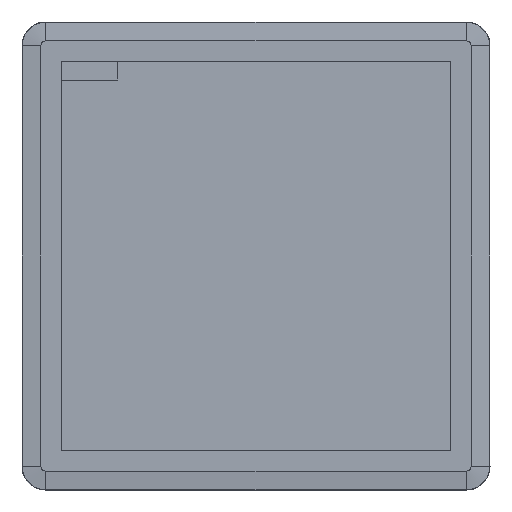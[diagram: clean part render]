
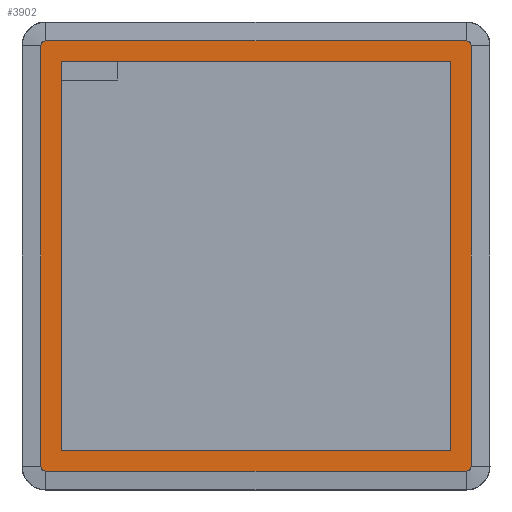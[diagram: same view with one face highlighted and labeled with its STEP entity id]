
A CAD part, front view. The second image highlights one B-rep face of the part: STEP entity #3902.
In plain terms, the highlighted planar face has unit normal (0, -1, 0).
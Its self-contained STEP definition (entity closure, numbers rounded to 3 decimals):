
#2136=B_SPLINE_CURVE_WITH_KNOTS('',1,(#58973,#58974),.UNSPECIFIED.,.F.,.F.,
(2,2),(0.,1.),.UNSPECIFIED.);
#2139=B_SPLINE_CURVE_WITH_KNOTS('',3,(#58979,#58980,#58981,#58982,#58983,
#58984),.UNSPECIFIED.,.F.,.F.,(4,2,4),(-0.785,0.,
0.785),.UNSPECIFIED.);
#2143=B_SPLINE_CURVE_WITH_KNOTS('',3,(#58995,#58996,#58997,#58998,#58999,
#59000),.UNSPECIFIED.,.F.,.F.,(4,2,4),(-0.785,0.,
0.785),.UNSPECIFIED.);
#2145=B_SPLINE_CURVE_WITH_KNOTS('',1,(#59007,#59008),.UNSPECIFIED.,.F.,.F.,
(2,2),(0.,1.),.UNSPECIFIED.);
#2150=B_SPLINE_CURVE_WITH_KNOTS('',1,(#59017,#59018),.UNSPECIFIED.,.F.,.F.,
(2,2),(-1.,0.),.UNSPECIFIED.);
#2151=B_SPLINE_CURVE_WITH_KNOTS('',3,(#59019,#59020,#59021,#59022,#59023,
#59024),.UNSPECIFIED.,.F.,.F.,(4,2,4),(-0.785,0.,
0.785),.UNSPECIFIED.);
#2155=B_SPLINE_CURVE_WITH_KNOTS('',3,(#59035,#59036,#59037,#59038,#59039,
#59040),.UNSPECIFIED.,.F.,.F.,(4,2,4),(-0.785,0.,
0.785),.UNSPECIFIED.);
#2161=B_SPLINE_CURVE_WITH_KNOTS('',1,(#59119,#59120),.UNSPECIFIED.,.F.,.F.,
(2,2),(0.,1.),.UNSPECIFIED.);
#2162=B_SPLINE_CURVE_WITH_KNOTS('',1,(#59121,#59122),.UNSPECIFIED.,.F.,.F.,
(2,2),(-4.,-3.),.UNSPECIFIED.);
#2163=B_SPLINE_CURVE_WITH_KNOTS('',1,(#59123,#59124),.UNSPECIFIED.,.F.,.F.,
(2,2),(-3.,-2.),.UNSPECIFIED.);
#2164=B_SPLINE_CURVE_WITH_KNOTS('',1,(#59125,#59126),.UNSPECIFIED.,.F.,.F.,
(2,2),(-2.,-1.),.UNSPECIFIED.);
#2165=B_SPLINE_CURVE_WITH_KNOTS('',1,(#59127,#59128),.UNSPECIFIED.,.F.,.F.,
(2,2),(-1.,0.),.UNSPECIFIED.);
#2751=FACE_BOUND('',#6635,.T.);
#3902=ADVANCED_FACE('',(#5240,#2751),#25216,.T.);
#5240=FACE_OUTER_BOUND('',#6634,.T.);
#6634=EDGE_LOOP('',(#13484,#13485,#13486,#13487,#13488,#13489,#13490,#13491));
#6635=EDGE_LOOP('',(#13492,#13493,#13494,#13495));
#13484=ORIENTED_EDGE('',*,*,#18857,.F.);
#13485=ORIENTED_EDGE('',*,*,#18854,.F.);
#13486=ORIENTED_EDGE('',*,*,#18861,.F.);
#13487=ORIENTED_EDGE('',*,*,#18868,.F.);
#13488=ORIENTED_EDGE('',*,*,#18873,.F.);
#13489=ORIENTED_EDGE('',*,*,#18887,.T.);
#13490=ORIENTED_EDGE('',*,*,#18869,.F.);
#13491=ORIENTED_EDGE('',*,*,#18863,.F.);
#13492=ORIENTED_EDGE('',*,*,#18891,.T.);
#13493=ORIENTED_EDGE('',*,*,#18888,.T.);
#13494=ORIENTED_EDGE('',*,*,#18889,.T.);
#13495=ORIENTED_EDGE('',*,*,#18890,.T.);
#18854=EDGE_CURVE('',#23993,#23994,#2136,.T.);
#18857=EDGE_CURVE('',#23994,#23996,#2139,.T.);
#18861=EDGE_CURVE('',#23999,#23993,#2143,.T.);
#18863=EDGE_CURVE('',#23996,#24000,#2145,.T.);
#18868=EDGE_CURVE('',#24003,#23999,#2150,.T.);
#18869=EDGE_CURVE('',#24000,#24004,#2151,.T.);
#18873=EDGE_CURVE('',#24007,#24003,#2155,.T.);
#18887=EDGE_CURVE('',#24007,#24004,#2161,.T.);
#18888=EDGE_CURVE('',#24008,#24009,#2162,.T.);
#18889=EDGE_CURVE('',#24009,#24010,#2163,.T.);
#18890=EDGE_CURVE('',#24010,#24011,#2164,.T.);
#18891=EDGE_CURVE('',#24011,#24008,#2165,.T.);
#23993=VERTEX_POINT('',#58863);
#23994=VERTEX_POINT('',#58864);
#23996=VERTEX_POINT('',#58866);
#23999=VERTEX_POINT('',#58869);
#24000=VERTEX_POINT('',#58870);
#24003=VERTEX_POINT('',#58873);
#24004=VERTEX_POINT('',#58874);
#24007=VERTEX_POINT('',#58877);
#24008=VERTEX_POINT('',#58878);
#24009=VERTEX_POINT('',#58879);
#24010=VERTEX_POINT('',#58880);
#24011=VERTEX_POINT('',#58881);
#25216=PLANE('',#26629);
#26629=AXIS2_PLACEMENT_3D('',#58827,#27318,$);
#27318=DIRECTION('',(0.,-1.,0.));
#58827=CARTESIAN_POINT('',(-137.481,-30.5,137.481));
#58863=CARTESIAN_POINT('',(112.074,-30.5,-114.555));
#58864=CARTESIAN_POINT('',(-112.074,-30.5,-114.555));
#58866=CARTESIAN_POINT('',(-114.555,-30.5,-112.074));
#58869=CARTESIAN_POINT('',(114.555,-30.5,-112.074));
#58870=CARTESIAN_POINT('',(-114.555,-30.5,112.074));
#58873=CARTESIAN_POINT('',(114.555,-30.5,112.074));
#58874=CARTESIAN_POINT('',(-112.074,-30.5,114.555));
#58877=CARTESIAN_POINT('',(112.074,-30.5,114.555));
#58878=CARTESIAN_POINT('',(-103.734,-30.5,103.734));
#58879=CARTESIAN_POINT('',(103.734,-30.5,103.734));
#58880=CARTESIAN_POINT('',(103.734,-30.5,-103.734));
#58881=CARTESIAN_POINT('',(-103.734,-30.5,-103.734));
#58973=CARTESIAN_POINT('',(112.074,-30.5,-114.555));
#58974=CARTESIAN_POINT('',(-112.074,-30.5,-114.555));
#58979=CARTESIAN_POINT('',(-112.074,-30.5,-114.555));
#58980=CARTESIAN_POINT('',(-112.725,-30.5,-114.558));
#58981=CARTESIAN_POINT('',(-113.369,-30.5,-114.288));
#58982=CARTESIAN_POINT('',(-114.288,-30.5,-113.369));
#58983=CARTESIAN_POINT('',(-114.558,-30.5,-112.725));
#58984=CARTESIAN_POINT('',(-114.555,-30.5,-112.074));
#58995=CARTESIAN_POINT('',(114.555,-30.5,-112.074));
#58996=CARTESIAN_POINT('',(114.558,-30.5,-112.725));
#58997=CARTESIAN_POINT('',(114.288,-30.5,-113.369));
#58998=CARTESIAN_POINT('',(113.369,-30.5,-114.288));
#58999=CARTESIAN_POINT('',(112.725,-30.5,-114.558));
#59000=CARTESIAN_POINT('',(112.074,-30.5,-114.555));
#59007=CARTESIAN_POINT('',(-114.555,-30.5,-112.074));
#59008=CARTESIAN_POINT('',(-114.555,-30.5,112.074));
#59017=CARTESIAN_POINT('',(114.555,-30.5,112.074));
#59018=CARTESIAN_POINT('',(114.555,-30.5,-112.074));
#59019=CARTESIAN_POINT('',(-114.555,-30.5,112.074));
#59020=CARTESIAN_POINT('',(-114.558,-30.5,112.725));
#59021=CARTESIAN_POINT('',(-114.288,-30.5,113.369));
#59022=CARTESIAN_POINT('',(-113.369,-30.5,114.288));
#59023=CARTESIAN_POINT('',(-112.725,-30.5,114.558));
#59024=CARTESIAN_POINT('',(-112.074,-30.5,114.555));
#59035=CARTESIAN_POINT('',(112.074,-30.5,114.555));
#59036=CARTESIAN_POINT('',(112.725,-30.5,114.558));
#59037=CARTESIAN_POINT('',(113.369,-30.5,114.288));
#59038=CARTESIAN_POINT('',(114.288,-30.5,113.369));
#59039=CARTESIAN_POINT('',(114.558,-30.5,112.725));
#59040=CARTESIAN_POINT('',(114.555,-30.5,112.074));
#59119=CARTESIAN_POINT('',(112.074,-30.5,114.555));
#59120=CARTESIAN_POINT('',(-112.074,-30.5,114.555));
#59121=CARTESIAN_POINT('',(-103.734,-30.5,103.734));
#59122=CARTESIAN_POINT('',(103.734,-30.5,103.734));
#59123=CARTESIAN_POINT('',(103.734,-30.5,103.734));
#59124=CARTESIAN_POINT('',(103.734,-30.5,-103.734));
#59125=CARTESIAN_POINT('',(103.734,-30.5,-103.734));
#59126=CARTESIAN_POINT('',(-103.734,-30.5,-103.734));
#59127=CARTESIAN_POINT('',(-103.734,-30.5,-103.734));
#59128=CARTESIAN_POINT('',(-103.734,-30.5,103.734));
